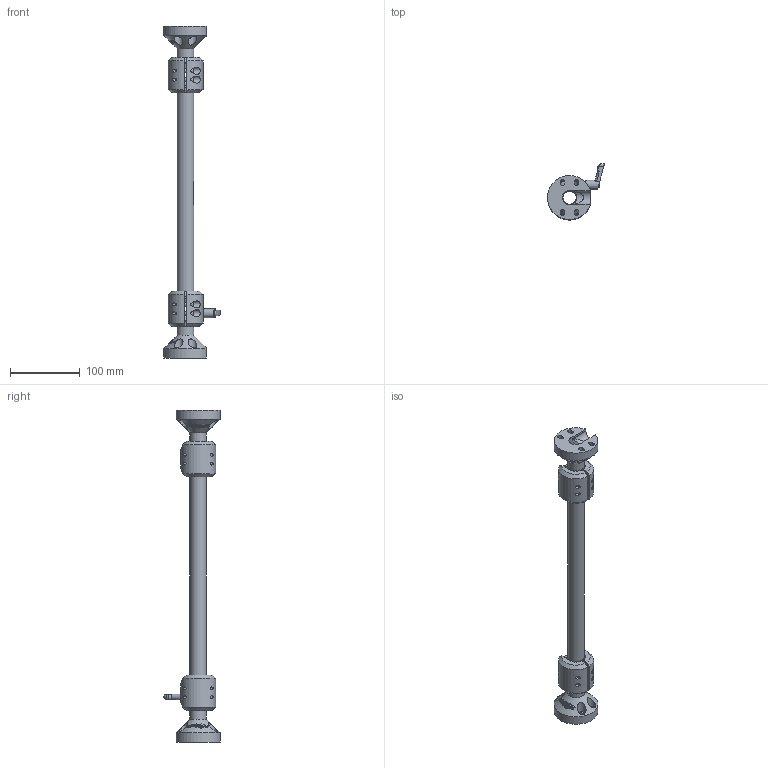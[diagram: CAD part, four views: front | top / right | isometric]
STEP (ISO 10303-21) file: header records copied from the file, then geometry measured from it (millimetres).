
FILE_DESCRIPTION (( 'STEP AP214' ), '1' );
FILE_NAME ('SLM-100300.STEP', '2021-10-26T15:37:58', ( '' ), ( '' ), 'SwSTEP 2.0', 'SolidWorks 2020', '' );
FILE_SCHEMA (( 'AUTOMOTIVE_DESIGN' ));
Length unit declared in the file: inch
Products named in the file (7): SLM-3-300; SLM-Clamp Handle; SLM-100300; SLM-2; SLM-2_Swivellink Etching; MSHCS-39547-BO_MSHCS-39547-BO; SLM-1_Swivellink Etching
Assembly tree (11 placements, depth 3):
  SLM-100300
    SLM-1_Swivellink Etching  x2
    SLM-2  x2
      SLM-2_Swivellink Etching
      MSHCS-39547-BO_MSHCS-39547-BO
    SLM-3-300
    SLM-Clamp Handle
Bounding box: 81.68 x 80.59 x 476.01 mm (x, y, z)
Volume: 178359.6 mm3; surface area: 120998.5 mm2
Topology: 15 solids, 20 shells, 775 faces, 6182 edges, 5802 vertices
Faces by surface type: cylinder 344, plane 203, cone 190, torus 18, sphere 16, bspline 4
Full cylindrical faces by diameter (mm): 2.459 x1, 4.2 x8, 4.5 x1, 4.877 x1, 5 x10, 5.8 x8, 7.938 x1, 8 x1, 8.3 x1, 8.5 x8, 10 x9, 12.7 x8, 13 x1, 19.05 x1, 20.638 x2, 23.812 x3
Entity records: 44627 total; most frequent: CARTESIAN_POINT 18056, ORIENTED_EDGE 6916, EDGE_CURVE 3460, VERTEX_POINT 3365, DIRECTION 2399, B_SPLINE_CURVE_WITH_KNOTS 2387, AXIS2_PLACEMENT_3D 930, EDGE_LOOP 696
